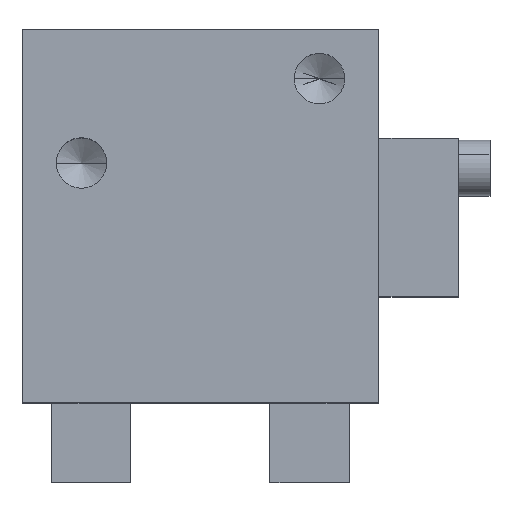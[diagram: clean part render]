
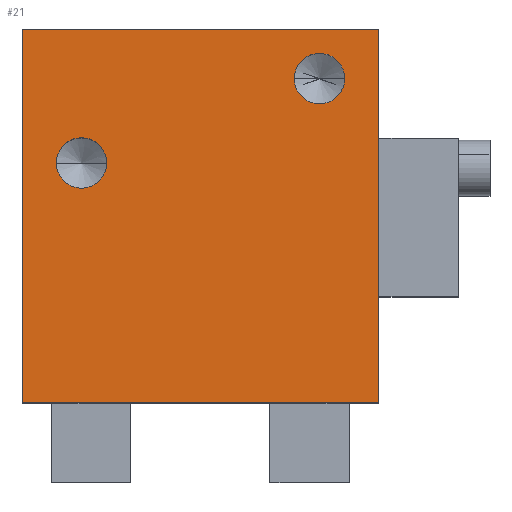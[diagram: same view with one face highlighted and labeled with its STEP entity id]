
A CAD part, top view. The second image highlights one B-rep face of the part: STEP entity #21.
In plain terms, the highlighted planar face has unit normal (0, 0, 1).
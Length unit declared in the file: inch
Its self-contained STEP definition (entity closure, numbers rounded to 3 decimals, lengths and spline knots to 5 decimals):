
#21 = ADVANCED_FACE ( 'NONE', ( #1976, #611, #6149 ), #2164, .F. ) ;
#101 = EDGE_LOOP ( 'NONE', ( #3845, #4927, #378, #231 ) ) ;
#147 = AXIS2_PLACEMENT_3D ( 'NONE', #4479, #1411, #5022 ) ;
#231 = ORIENTED_EDGE ( 'NONE', *, *, #6039, .T. ) ;
#315 = DIRECTION ( 'NONE',  ( 0., 0., 1. ) ) ;
#378 = ORIENTED_EDGE ( 'NONE', *, *, #2187, .F. ) ;
#420 = VERTEX_POINT ( 'NONE', #6086 ) ;
#611 = FACE_BOUND ( 'NONE', #4946, .T. ) ;
#671 = VECTOR ( 'NONE', #4250, 39.37008 ) ;
#681 = CARTESIAN_POINT ( 'NONE',  ( 0.5625, 0.589, 0.5 ) ) ;
#749 = CARTESIAN_POINT ( 'NONE',  ( -0.2955, 0.167, 0.5 ) ) ;
#844 = DIRECTION ( 'NONE',  ( 0., -1., 0. ) ) ;
#1134 = LINE ( 'NONE', #4692, #6551 ) ;
#1142 = DIRECTION ( 'NONE',  ( 0., 0., -1. ) ) ;
#1194 = ORIENTED_EDGE ( 'NONE', *, *, #6120, .F. ) ;
#1204 = ORIENTED_EDGE ( 'NONE', *, *, #4220, .F. ) ;
#1411 = DIRECTION ( 'NONE',  ( 0., 0., 1. ) ) ;
#1448 = DIRECTION ( 'NONE',  ( 0., 0., 1. ) ) ;
#1791 = CIRCLE ( 'NONE', #2924, 0.0795 ) ;
#1820 = CARTESIAN_POINT ( 'NONE',  ( 0.5625, 0.589, 0.5 ) ) ;
#1976 = FACE_BOUND ( 'NONE', #4801, .T. ) ;
#1995 = VECTOR ( 'NONE', #844, 39.37008 ) ;
#2164 = PLANE ( 'NONE',  #3451 ) ;
#2168 = DIRECTION ( 'NONE',  ( 1., 0., 0. ) ) ;
#2187 = EDGE_CURVE ( 'NONE', #420, #3755, #5182, .T. ) ;
#2518 = EDGE_CURVE ( 'NONE', #3755, #4294, #6206, .T. ) ;
#2664 = CARTESIAN_POINT ( 'NONE',  ( -0.5625, 0.589, 0.5 ) ) ;
#2680 = DIRECTION ( 'NONE',  ( 0., 0., 1. ) ) ;
#2823 = AXIS2_PLACEMENT_3D ( 'NONE', #4509, #1448, #5055 ) ;
#2924 = AXIS2_PLACEMENT_3D ( 'NONE', #5823, #2680, #6381 ) ;
#3060 = CARTESIAN_POINT ( 'NONE',  ( -0.4545, 0.167, 0.5 ) ) ;
#3211 = CARTESIAN_POINT ( 'NONE',  ( -0.5625, 0.589, 0.5 ) ) ;
#3377 = CARTESIAN_POINT ( 'NONE',  ( 0.375, 0.433, 0.5 ) ) ;
#3387 = CARTESIAN_POINT ( 'NONE',  ( 0.2955, 0.433, 0.5 ) ) ;
#3451 = AXIS2_PLACEMENT_3D ( 'NONE', #2664, #1142, #4714 ) ;
#3525 = EDGE_CURVE ( 'NONE', #4169, #4294, #1134, .T. ) ;
#3565 = ORIENTED_EDGE ( 'NONE', *, *, #4925, .F. ) ;
#3755 = VERTEX_POINT ( 'NONE', #1820 ) ;
#3845 = ORIENTED_EDGE ( 'NONE', *, *, #3525, .T. ) ;
#3880 = CARTESIAN_POINT ( 'NONE',  ( 0.4545, 0.433, 0.5 ) ) ;
#3895 = DIRECTION ( 'NONE',  ( 1., 0., 0. ) ) ;
#4048 = AXIS2_PLACEMENT_3D ( 'NONE', #3377, #315, #3895 ) ;
#4169 = VERTEX_POINT ( 'NONE', #6296 ) ;
#4220 = EDGE_CURVE ( 'NONE', #5187, #4851, #1791, .T. ) ;
#4250 = DIRECTION ( 'NONE',  ( 0., -1., 0. ) ) ;
#4294 = VERTEX_POINT ( 'NONE', #5547 ) ;
#4479 = CARTESIAN_POINT ( 'NONE',  ( -0.375, 0.167, 0.5 ) ) ;
#4509 = CARTESIAN_POINT ( 'NONE',  ( -0.375, 0.167, 0.5 ) ) ;
#4692 = CARTESIAN_POINT ( 'NONE',  ( -0.5625, -0.589, 0.5 ) ) ;
#4714 = DIRECTION ( 'NONE',  ( -1., 0., 0. ) ) ;
#4801 = EDGE_LOOP ( 'NONE', ( #3565, #1194 ) ) ;
#4851 = VERTEX_POINT ( 'NONE', #3387 ) ;
#4925 = EDGE_CURVE ( 'NONE', #6527, #6248, #5062, .T. ) ;
#4927 = ORIENTED_EDGE ( 'NONE', *, *, #2518, .F. ) ;
#4946 = EDGE_LOOP ( 'NONE', ( #1204, #6771 ) ) ;
#5022 = DIRECTION ( 'NONE',  ( 1., 0., 0. ) ) ;
#5055 = DIRECTION ( 'NONE',  ( 1., 0., 0. ) ) ;
#5062 = CIRCLE ( 'NONE', #147, 0.0795 ) ;
#5182 = LINE ( 'NONE', #3211, #6295 ) ;
#5187 = VERTEX_POINT ( 'NONE', #3880 ) ;
#5366 = CIRCLE ( 'NONE', #2823, 0.0795 ) ;
#5522 = CARTESIAN_POINT ( 'NONE',  ( -0.5625, 0.589, 0.5 ) ) ;
#5547 = CARTESIAN_POINT ( 'NONE',  ( 0.5625, -0.589, 0.5 ) ) ;
#5823 = CARTESIAN_POINT ( 'NONE',  ( 0.375, 0.433, 0.5 ) ) ;
#5876 = DIRECTION ( 'NONE',  ( 1., 0., 0. ) ) ;
#6015 = LINE ( 'NONE', #5522, #1995 ) ;
#6039 = EDGE_CURVE ( 'NONE', #420, #4169, #6015, .T. ) ;
#6043 = CIRCLE ( 'NONE', #4048, 0.0795 ) ;
#6086 = CARTESIAN_POINT ( 'NONE',  ( -0.5625, 0.589, 0.5 ) ) ;
#6120 = EDGE_CURVE ( 'NONE', #6248, #6527, #5366, .T. ) ;
#6149 = FACE_OUTER_BOUND ( 'NONE', #101, .T. ) ;
#6206 = LINE ( 'NONE', #681, #671 ) ;
#6248 = VERTEX_POINT ( 'NONE', #3060 ) ;
#6295 = VECTOR ( 'NONE', #5876, 39.37008 ) ;
#6296 = CARTESIAN_POINT ( 'NONE',  ( -0.5625, -0.589, 0.5 ) ) ;
#6381 = DIRECTION ( 'NONE',  ( 1., 0., 0. ) ) ;
#6527 = VERTEX_POINT ( 'NONE', #749 ) ;
#6551 = VECTOR ( 'NONE', #2168, 39.37008 ) ;
#6611 = EDGE_CURVE ( 'NONE', #4851, #5187, #6043, .T. ) ;
#6771 = ORIENTED_EDGE ( 'NONE', *, *, #6611, .F. ) ;
